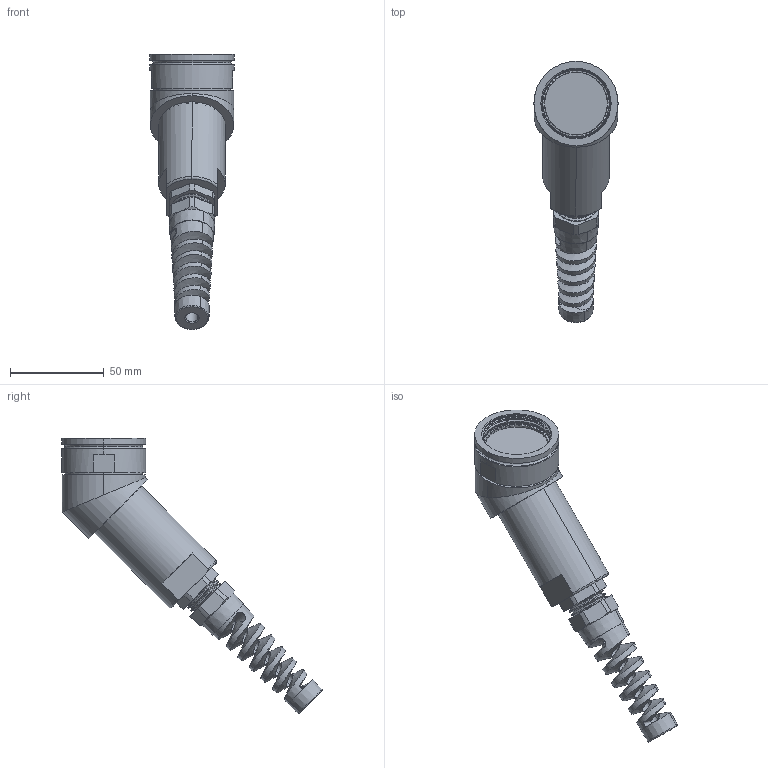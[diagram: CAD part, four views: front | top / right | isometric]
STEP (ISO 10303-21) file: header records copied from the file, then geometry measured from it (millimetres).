
FILE_DESCRIPTION (( 'STEP AP214' ), '1' );
FILE_NAME ('Q38SHELL-45X-25-XXXX-GB.STEP', '2025-09-25T21:07:13', ( '' ), ( '' ), 'SwSTEP 2.0', 'SolidWorks 2024', '' );
FILE_SCHEMA (( 'AUTOMOTIVE_DESIGN' ));
Length unit declared in the file: millimetre
Products named in the file (1): Q38SHELL-45X-25-XXXX-GB
Bounding box: 44.88 x 139.01 x 146.66 mm (x, y, z)
Volume: 131139.2 mm3; surface area: 28640.7 mm2
Topology: 2 solids, 2 shells, 350 faces, 1091 edges, 759 vertices
Faces by surface type: plane 216, cylinder 74, cone 40, torus 13, bspline 7
Entity records: 17313 total; most frequent: CARTESIAN_POINT 8260, ORIENTED_EDGE 2182, DIRECTION 1663, EDGE_CURVE 1091, VERTEX_POINT 759, AXIS2_PLACEMENT_3D 675, EDGE_LOOP 368, ADVANCED_FACE 350
